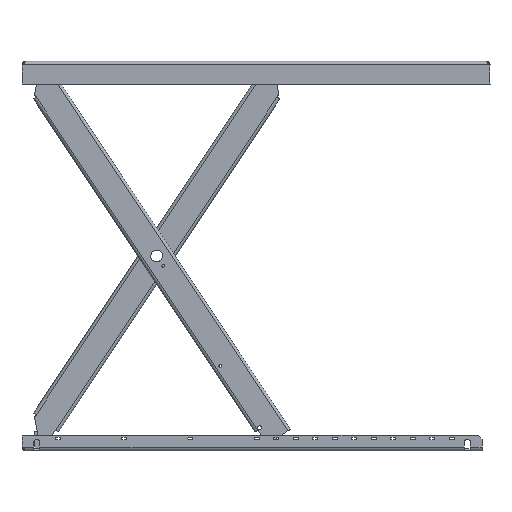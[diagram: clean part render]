
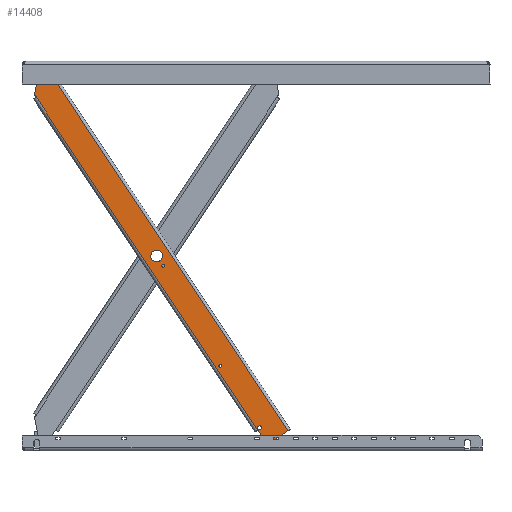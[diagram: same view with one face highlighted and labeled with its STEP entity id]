
A CAD part, front view. The second image highlights one B-rep face of the part: STEP entity #14408.
In plain terms, the highlighted planar face has unit normal (0, -1, 0).
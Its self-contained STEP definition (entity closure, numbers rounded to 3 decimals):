
#1015=LINE('',#26283,#2435);
#1035=LINE('',#26410,#2455);
#1050=LINE('',#26517,#2470);
#1052=LINE('',#26523,#2472);
#1053=LINE('',#26525,#2473);
#1054=LINE('',#26526,#2474);
#1055=LINE('',#26530,#2475);
#1056=LINE('',#26533,#2476);
#2435=VECTOR('',#18105,10.);
#2455=VECTOR('',#18171,10.);
#2470=VECTOR('',#18224,10.);
#2472=VECTOR('',#18232,10.);
#2473=VECTOR('',#18233,10.);
#2474=VECTOR('',#18234,10.);
#2475=VECTOR('',#18237,10.);
#2476=VECTOR('',#18240,10.);
#3384=PLANE('',#15607);
#3759=FACE_BOUND('',#5096,.T.);
#3760=FACE_BOUND('',#5097,.T.);
#3761=FACE_BOUND('',#5098,.T.);
#3762=FACE_BOUND('',#5099,.T.);
#3763=FACE_BOUND('',#5100,.T.);
#3764=FACE_BOUND('',#5101,.T.);
#4199=FACE_OUTER_BOUND('',#5095,.T.);
#5095=EDGE_LOOP('',(#11667,#11668,#11669,#11670,#11671,#11672,#11673,#11674,
#11675,#11676,#11677,#11678,#11679));
#5096=EDGE_LOOP('',(#11680));
#5097=EDGE_LOOP('',(#11681));
#5098=EDGE_LOOP('',(#11682));
#5099=EDGE_LOOP('',(#11683));
#5100=EDGE_LOOP('',(#11684));
#5101=EDGE_LOOP('',(#11685));
#5897=CIRCLE('',#15583,5.);
#5912=CIRCLE('',#15603,5.);
#5913=CIRCLE('',#15606,5.);
#5914=CIRCLE('',#15608,5.);
#5915=CIRCLE('',#15609,5.);
#5916=CIRCLE('',#15610,5.1);
#5917=CIRCLE('',#15611,5.1);
#5918=CIRCLE('',#15612,15.1);
#5919=CIRCLE('',#15613,3.7);
#5920=CIRCLE('',#15614,3.7);
#5921=CIRCLE('',#15615,5.);
#6790=VERTEX_POINT('',#26249);
#6793=VERTEX_POINT('',#26281);
#6800=VERTEX_POINT('',#26324);
#6822=VERTEX_POINT('',#26401);
#6823=VERTEX_POINT('',#26402);
#6848=VERTEX_POINT('',#26486);
#6849=VERTEX_POINT('',#26511);
#6850=VERTEX_POINT('',#26515);
#6851=VERTEX_POINT('',#26519);
#6852=VERTEX_POINT('',#26524);
#6853=VERTEX_POINT('',#26527);
#6854=VERTEX_POINT('',#26529);
#6855=VERTEX_POINT('',#26531);
#6856=VERTEX_POINT('',#26534);
#6857=VERTEX_POINT('',#26536);
#6858=VERTEX_POINT('',#26538);
#6859=VERTEX_POINT('',#26540);
#6860=VERTEX_POINT('',#26542);
#6861=VERTEX_POINT('',#26544);
#8508=EDGE_CURVE('',#6790,#6793,#1015,.T.);
#8543=EDGE_CURVE('',#6822,#6823,#5897,.T.);
#8547=EDGE_CURVE('',#6800,#6822,#1035,.T.);
#8578=EDGE_CURVE('',#6849,#6848,#5912,.T.);
#8580=EDGE_CURVE('',#6849,#6850,#1050,.T.);
#8581=EDGE_CURVE('',#6851,#6850,#5913,.T.);
#8583=EDGE_CURVE('',#6848,#6800,#1052,.T.);
#8584=EDGE_CURVE('',#6851,#6852,#1053,.T.);
#8585=EDGE_CURVE('',#6852,#6790,#1054,.T.);
#8586=EDGE_CURVE('',#6853,#6793,#5914,.T.);
#8587=EDGE_CURVE('',#6853,#6854,#1055,.T.);
#8588=EDGE_CURVE('',#6855,#6854,#5915,.T.);
#8589=EDGE_CURVE('',#6855,#6823,#1056,.T.);
#8590=EDGE_CURVE('',#6856,#6856,#5916,.T.);
#8591=EDGE_CURVE('',#6857,#6857,#5917,.T.);
#8592=EDGE_CURVE('',#6858,#6858,#5918,.T.);
#8593=EDGE_CURVE('',#6859,#6859,#5919,.T.);
#8594=EDGE_CURVE('',#6860,#6860,#5920,.T.);
#8595=EDGE_CURVE('',#6861,#6861,#5921,.T.);
#11667=ORIENTED_EDGE('',*,*,#8543,.F.);
#11668=ORIENTED_EDGE('',*,*,#8547,.F.);
#11669=ORIENTED_EDGE('',*,*,#8583,.F.);
#11670=ORIENTED_EDGE('',*,*,#8578,.F.);
#11671=ORIENTED_EDGE('',*,*,#8580,.T.);
#11672=ORIENTED_EDGE('',*,*,#8581,.F.);
#11673=ORIENTED_EDGE('',*,*,#8584,.T.);
#11674=ORIENTED_EDGE('',*,*,#8585,.T.);
#11675=ORIENTED_EDGE('',*,*,#8508,.T.);
#11676=ORIENTED_EDGE('',*,*,#8586,.F.);
#11677=ORIENTED_EDGE('',*,*,#8587,.T.);
#11678=ORIENTED_EDGE('',*,*,#8588,.F.);
#11679=ORIENTED_EDGE('',*,*,#8589,.T.);
#11680=ORIENTED_EDGE('',*,*,#8590,.T.);
#11681=ORIENTED_EDGE('',*,*,#8591,.T.);
#11682=ORIENTED_EDGE('',*,*,#8592,.T.);
#11683=ORIENTED_EDGE('',*,*,#8593,.T.);
#11684=ORIENTED_EDGE('',*,*,#8594,.T.);
#11685=ORIENTED_EDGE('',*,*,#8595,.T.);
#14408=ADVANCED_FACE('',(#4199,#3759,#3760,#3761,#3762,#3763,#3764),#3384,
 .T.);
#15583=AXIS2_PLACEMENT_3D('',#26403,#18163,#18164);
#15603=AXIS2_PLACEMENT_3D('',#26513,#18219,#18220);
#15606=AXIS2_PLACEMENT_3D('',#26520,#18227,#18228);
#15607=AXIS2_PLACEMENT_3D('',#26522,#18230,#18231);
#15608=AXIS2_PLACEMENT_3D('',#26528,#18235,#18236);
#15609=AXIS2_PLACEMENT_3D('',#26532,#18238,#18239);
#15610=AXIS2_PLACEMENT_3D('',#26535,#18241,#18242);
#15611=AXIS2_PLACEMENT_3D('',#26537,#18243,#18244);
#15612=AXIS2_PLACEMENT_3D('',#26539,#18245,#18246);
#15613=AXIS2_PLACEMENT_3D('',#26541,#18247,#18248);
#15614=AXIS2_PLACEMENT_3D('',#26543,#18249,#18250);
#15615=AXIS2_PLACEMENT_3D('',#26545,#18251,#18252);
#18105=DIRECTION('',(0.,0.,1.));
#18163=DIRECTION('center_axis',(0.,1.,0.));
#18164=DIRECTION('ref_axis',(-0.924,0.,0.383));
#18171=DIRECTION('',(0.,0.,1.));
#18219=DIRECTION('center_axis',(0.,-1.,0.));
#18220=DIRECTION('ref_axis',(0.707,0.,0.707));
#18224=DIRECTION('',(0.,0.,-1.));
#18227=DIRECTION('center_axis',(0.,1.,0.));
#18228=DIRECTION('ref_axis',(-0.707,0.,-0.707));
#18230=DIRECTION('center_axis',(0.,-1.,0.));
#18231=DIRECTION('ref_axis',(0.,0.,-1.));
#18232=DIRECTION('',(0.,0.,1.));
#18233=DIRECTION('',(1.,0.,0.));
#18234=DIRECTION('',(0.,0.,1.));
#18235=DIRECTION('center_axis',(0.,1.,0.));
#18236=DIRECTION('ref_axis',(0.707,0.,0.707));
#18237=DIRECTION('',(-1.,0.,0.));
#18238=DIRECTION('center_axis',(0.,1.,0.));
#18239=DIRECTION('ref_axis',(-0.383,0.,0.924));
#18240=DIRECTION('',(-0.707,0.,-0.707));
#18241=DIRECTION('center_axis',(0.,1.,0.));
#18242=DIRECTION('ref_axis',(1.,0.,0.));
#18243=DIRECTION('center_axis',(0.,1.,0.));
#18244=DIRECTION('ref_axis',(1.,0.,0.));
#18245=DIRECTION('center_axis',(0.,1.,0.));
#18246=DIRECTION('ref_axis',(1.,0.,0.));
#18247=DIRECTION('center_axis',(0.,1.,0.));
#18248=DIRECTION('ref_axis',(1.,0.,0.));
#18249=DIRECTION('center_axis',(0.,1.,0.));
#18250=DIRECTION('ref_axis',(1.,0.,0.));
#18251=DIRECTION('center_axis',(0.,1.,0.));
#18252=DIRECTION('ref_axis',(1.,0.,0.));
#26249=CARTESIAN_POINT('',(32.,-20.,519.));
#26281=CARTESIAN_POINT('',(32.,-20.,555.));
#26283=CARTESIAN_POINT('',(32.,-20.,0.));
#26324=CARTESIAN_POINT('',(-32.,-20.,514.));
#26401=CARTESIAN_POINT('',(-32.,-20.,515.929));
#26402=CARTESIAN_POINT('',(-30.536,-20.,519.464));
#26403=CARTESIAN_POINT('Origin',(-27.,-20.,515.929));
#26410=CARTESIAN_POINT('',(-32.,-20.,0.));
#26486=CARTESIAN_POINT('',(-32.,-20.,-517.));
#26511=CARTESIAN_POINT('',(-31.,-20.,-520.));
#26513=CARTESIAN_POINT('Origin',(-36.,-20.,-520.));
#26515=CARTESIAN_POINT('',(-31.,-20.,-555.));
#26517=CARTESIAN_POINT('',(-31.,-20.,-280.));
#26519=CARTESIAN_POINT('',(-26.,-20.,-560.));
#26520=CARTESIAN_POINT('Origin',(-26.,-20.,-555.));
#26522=CARTESIAN_POINT('Origin',(32.,-20.,0.));
#26523=CARTESIAN_POINT('',(-32.,-20.,0.));
#26524=CARTESIAN_POINT('',(32.,-20.,-560.));
#26525=CARTESIAN_POINT('',(-32.,-20.,-560.));
#26526=CARTESIAN_POINT('',(32.,-20.,0.));
#26527=CARTESIAN_POINT('',(27.,-20.,560.));
#26528=CARTESIAN_POINT('Origin',(27.,-20.,555.));
#26529=CARTESIAN_POINT('',(12.071,-20.,560.));
#26530=CARTESIAN_POINT('',(-32.,-20.,560.));
#26531=CARTESIAN_POINT('',(8.536,-20.,558.536));
#26532=CARTESIAN_POINT('Origin',(12.071,-20.,555.));
#26533=CARTESIAN_POINT('',(-149.5,-20.,400.5));
#26534=CARTESIAN_POINT('',(22.1,-20.,550.));
#26535=CARTESIAN_POINT('Origin',(17.,-20.,550.));
#26536=CARTESIAN_POINT('',(-11.9,-20.,-550.));
#26537=CARTESIAN_POINT('Origin',(-17.,-20.,-550.));
#26538=CARTESIAN_POINT('',(15.1,-20.,0.));
#26539=CARTESIAN_POINT('Origin',(0.,-20.,0.));
#26540=CARTESIAN_POINT('',(-16.3,-20.,-325.));
#26541=CARTESIAN_POINT('Origin',(-20.,-20.,-325.));
#26542=CARTESIAN_POINT('',(3.7,-20.,-30.));
#26543=CARTESIAN_POINT('Origin',(0.,-20.,-30.));
#26544=CARTESIAN_POINT('',(-19.,-20.,-513.));
#26545=CARTESIAN_POINT('Origin',(-24.,-20.,-513.));
